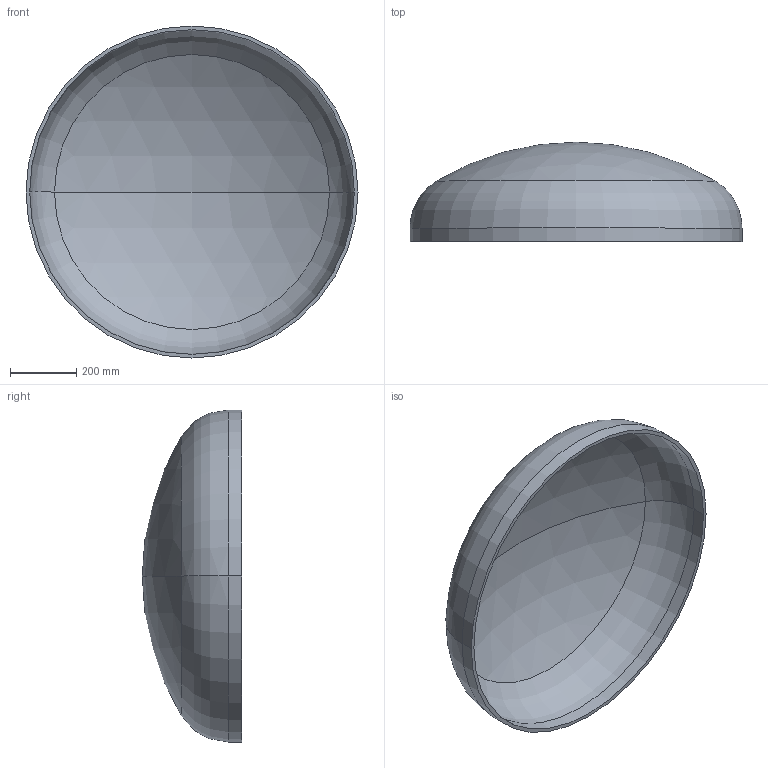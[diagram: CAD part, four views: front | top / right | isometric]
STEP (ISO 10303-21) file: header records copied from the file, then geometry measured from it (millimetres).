
FILE_DESCRIPTION (( 'STEP AP203' ), '1' );
FILE_NAME ('DIN 28013 Korbbogenform_-_Boden DIN 28013 - 1000 x 40 - I - s=11.step', '2016-07-01T08:42:19', ( '' ), ( '' ), 'SwSTEP 2.0', 'SolidWorks 2013', '' );
FILE_SCHEMA (( 'CONFIG_CONTROL_DESIGN' ));
Length unit declared in the file: millimetre
Products named in the file (1): DIN 28013 Korbbogenform_-_Boden DIN 28013 - 1000 x 40 - I - s=11
Bounding box: 1000 x 299.21 x 1000 mm (x, y, z)
Volume: 13174754.7 mm3; surface area: 2429839.9 mm2
Topology: 1 solids, 1 shells, 13 faces, 24 edges, 14 vertices
Faces by surface type: torus 4, cylinder 4, sphere 4, plane 1
Entity records: 407 total; most frequent: DIRECTION 72, CARTESIAN_POINT 52, ORIENTED_EDGE 48, AXIS2_PLACEMENT_3D 34, EDGE_CURVE 24, CIRCLE 20, EDGE_LOOP 14, VERTEX_POINT 14
